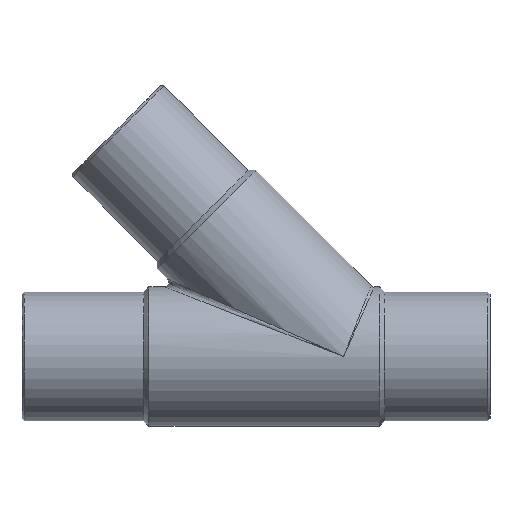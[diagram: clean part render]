
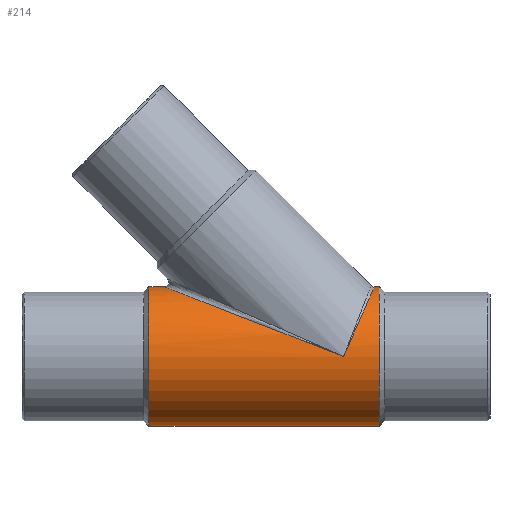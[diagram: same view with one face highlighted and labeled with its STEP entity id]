
A CAD part, front view. The second image highlights one B-rep face of the part: STEP entity #214.
In plain terms, the highlighted cylindrical face has radius 59.5 mm (diameter 119 mm), a full revolution.
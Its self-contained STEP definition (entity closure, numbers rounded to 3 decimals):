
#33=CIRCLE('',#250,59.5);
#34=CIRCLE('',#253,59.5);
#50=ORIENTED_EDGE('',*,*,#92,.T.);
#51=ORIENTED_EDGE('',*,*,#93,.T.);
#52=ORIENTED_EDGE('',*,*,#94,.T.);
#53=ORIENTED_EDGE('',*,*,#95,.F.);
#92=EDGE_CURVE('',#113,#113,#33,.T.);
#93=EDGE_CURVE('',#114,#115,#130,.T.);
#94=EDGE_CURVE('',#115,#114,#131,.T.);
#95=EDGE_CURVE('',#116,#116,#34,.T.);
#113=VERTEX_POINT('',#369);
#114=VERTEX_POINT('',#371);
#115=VERTEX_POINT('',#372);
#116=VERTEX_POINT('',#375);
#130=ELLIPSE('',#251,164.444,59.5);
#131=ELLIPSE('',#252,65.054,59.5);
#137=EDGE_LOOP('',(#50));
#138=EDGE_LOOP('',(#51,#52));
#139=EDGE_LOOP('',(#53));
#173=FACE_BOUND('',#137,.T.);
#174=FACE_BOUND('',#138,.T.);
#175=FACE_BOUND('',#139,.T.);
#207=CYLINDRICAL_SURFACE('',#249,59.5);
#214=ADVANCED_FACE('',(#173,#174,#175),#207,.T.);
#249=AXIS2_PLACEMENT_3D('',#367,#293,#294);
#250=AXIS2_PLACEMENT_3D('',#368,#295,#296);
#251=AXIS2_PLACEMENT_3D('',#370,#297,#298);
#252=AXIS2_PLACEMENT_3D('',#373,#299,#300);
#253=AXIS2_PLACEMENT_3D('',#374,#301,#302);
#293=DIRECTION('',(-1.,0.,0.));
#294=DIRECTION('',(0.,0.,1.));
#295=DIRECTION('',(-1.,0.,0.));
#296=DIRECTION('',(0.,0.,1.));
#297=DIRECTION('',(-0.362,0.,-0.932));
#298=DIRECTION('',(-0.932,0.,0.362));
#299=DIRECTION('',(0.915,0.,-0.404));
#300=DIRECTION('',(0.404,0.,0.915));
#301=DIRECTION('',(-1.,0.,0.));
#302=DIRECTION('',(0.,0.,1.));
#367=CARTESIAN_POINT('',(-60.,0.,0.));
#368=CARTESIAN_POINT('',(105.5,0.,0.));
#369=CARTESIAN_POINT('',(105.5,0.,59.5));
#370=CARTESIAN_POINT('',(74.854,0.,0.));
#371=CARTESIAN_POINT('',(74.854,-59.5,0.));
#372=CARTESIAN_POINT('',(74.854,59.5,0.));
#373=CARTESIAN_POINT('',(74.854,0.,0.));
#374=CARTESIAN_POINT('',(-91.5,0.,0.));
#375=CARTESIAN_POINT('',(-91.5,0.,59.5));
